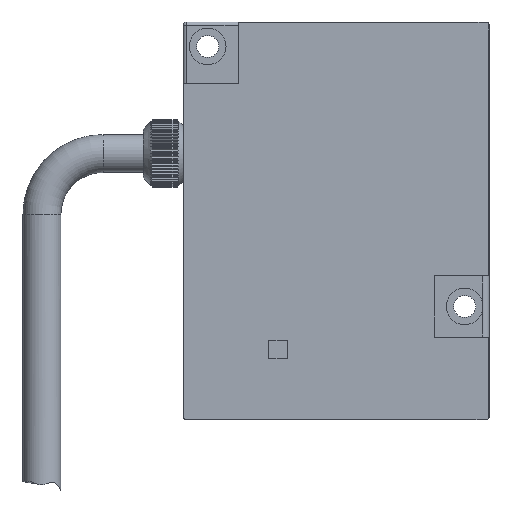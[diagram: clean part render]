
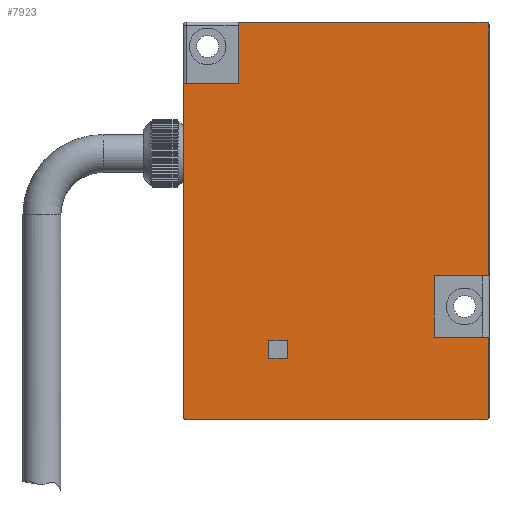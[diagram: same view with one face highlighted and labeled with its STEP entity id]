
A CAD part, front view. The second image highlights one B-rep face of the part: STEP entity #7923.
In plain terms, the highlighted planar face has unit normal (0, -1, 0).
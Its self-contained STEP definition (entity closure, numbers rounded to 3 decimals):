
#281 = CARTESIAN_POINT ( 'NONE',  ( 14., 0., -52. ) ) ;
#284 = CARTESIAN_POINT ( 'NONE',  ( 49.866, 0., -0.159 ) ) ;
#1088 = ORIENTED_EDGE ( 'NONE', *, *, #2467, .F. ) ;
#1090 = EDGE_LOOP ( 'NONE', ( #7174, #7172, #4149, #4150, #4151, #4152, #4153, #10716, #11285, #11286, #11330, #11329, #1088 ) ) ;
#1121 = EDGE_LOOP ( 'NONE', ( #10617, #10622, #6962, #8252 ) ) ;
#1608 = PLANE ( 'NONE',  #6050 ) ;
#1609 = CARTESIAN_POINT ( 'NONE',  ( 0., 0., -65. ) ) ;
#1610 = DIRECTION ( 'NONE',  ( 0., -1., 0. ) ) ;
#1611 = DIRECTION ( 'NONE',  ( 0., 0., -1. ) ) ;
#1874 = LINE ( 'NONE', #8358, #1876 ) ;
#1876 = VECTOR ( 'NONE', #8359, 1000. ) ;
#1877 = LINE ( 'NONE', #8360, #1878 ) ;
#1878 = VECTOR ( 'NONE', #8361, 1000. ) ;
#1879 = LINE ( 'NONE', #8365, #1881 ) ;
#1880 = CIRCLE ( 'NONE', #2304, 0.5 ) ;
#1881 = VECTOR ( 'NONE', #8366, 1000. ) ;
#1882 = LINE ( 'NONE', #8367, #1883 ) ;
#1883 = VECTOR ( 'NONE', #8368, 1000. ) ;
#1886 = LINE ( 'NONE', #8371, #1887 ) ;
#1887 = VECTOR ( 'NONE', #8372, 1000. ) ;
#1888 = LINE ( 'NONE', #8373, #1889 ) ;
#1889 = VECTOR ( 'NONE', #8374, 1000. ) ;
#1890 = LINE ( 'NONE', #8378, #1892 ) ;
#1891 = CIRCLE ( 'NONE', #2303, 0.5 ) ;
#1892 = VECTOR ( 'NONE', #8379, 1000. ) ;
#1893 = LINE ( 'NONE', #8383, #1895 ) ;
#1894 = CIRCLE ( 'NONE', #2302, 0.5 ) ;
#1895 = VECTOR ( 'NONE', #8384, 1000. ) ;
#1896 = LINE ( 'NONE', #8385, #1897 ) ;
#1897 = VECTOR ( 'NONE', #8386, 1000. ) ;
#1898 = LINE ( 'NONE', #8387, #1899 ) ;
#1899 = VECTOR ( 'NONE', #8388, 1000. ) ;
#1900 = LINE ( 'NONE', #8389, #1901 ) ;
#1901 = VECTOR ( 'NONE', #8390, 1000. ) ;
#1902 = LINE ( 'NONE', #8391, #1903 ) ;
#1903 = VECTOR ( 'NONE', #8392, 1000. ) ;
#1904 = LINE ( 'NONE', #8393, #1905 ) ;
#1905 = VECTOR ( 'NONE', #8394, 1000. ) ;
#1906 = LINE ( 'NONE', #8395, #1907 ) ;
#1907 = VECTOR ( 'NONE', #8396, 1000. ) ;
#2302 = AXIS2_PLACEMENT_3D ( 'NONE', #8380, #8381, #8382 ) ;
#2303 = AXIS2_PLACEMENT_3D ( 'NONE', #8375, #8376, #8377 ) ;
#2304 = AXIS2_PLACEMENT_3D ( 'NONE', #8362, #8363, #8364 ) ;
#2454 = EDGE_CURVE ( '������39', #9468, #8863, #1874, .T. ) ;
#2455 = EDGE_CURVE ( '������17', #9468, #3103, #1877, .T. ) ;
#2456 = EDGE_CURVE ( 'NONE', #3103, #9409, #1880, .T. ) ;
#2457 = EDGE_CURVE ( 'NONE', #9438, #9409, #1879, .T. ) ;
#2458 = EDGE_CURVE ( '������1', #8865, #9438, #1882, .T. ) ;
#2460 = EDGE_CURVE ( '������48', #9479, #8865, #1886, .T. ) ;
#2461 = EDGE_CURVE ( 'NONE', #9489, #9479, #1888, .T. ) ;
#2462 = EDGE_CURVE ( 'NONE', #9489, #8886, #1891, .T. ) ;
#2463 = EDGE_CURVE ( '������85', #9445, #8886, #1890, .T. ) ;
#2464 = EDGE_CURVE ( 'NONE', #9445, #8874, #1894, .T. ) ;
#2465 = EDGE_CURVE ( '������100', #8874, #9474, #1893, .T. ) ;
#2466 = EDGE_CURVE ( '������45', #9465, #9474, #1896, .T. ) ;
#2467 = EDGE_CURVE ( '������13', #8863, #9465, #1898, .T. ) ;
#2468 = EDGE_CURVE ( 'NONE', #8883, #9497, #1900, .T. ) ;
#2469 = EDGE_CURVE ( 'NONE', #3100, #8883, #1902, .T. ) ;
#2470 = EDGE_CURVE ( 'NONE', #9407, #3100, #1904, .T. ) ;
#2471 = EDGE_CURVE ( 'NONE', #9497, #9407, #1906, .T. ) ;
#3100 = VERTEX_POINT ( 'NONE', #281 ) ;
#3103 = VERTEX_POINT ( 'NONE', #284 ) ;
#3676 = CARTESIAN_POINT ( 'NONE',  ( 41., 0., -41.5 ) ) ;
#3678 = CARTESIAN_POINT ( 'NONE',  ( 9., 0., -10. ) ) ;
#3687 = CARTESIAN_POINT ( 'NONE',  ( 49.866, 0., -64.841 ) ) ;
#3696 = CARTESIAN_POINT ( 'NONE',  ( 14., 0., -55. ) ) ;
#3699 = CARTESIAN_POINT ( 'NONE',  ( 0.5, 0., -65. ) ) ;
#3831 = CARTESIAN_POINT ( 'NONE',  ( 17., 0., -52. ) ) ;
#3833 = CARTESIAN_POINT ( 'NONE',  ( 49.5, 0., 0. ) ) ;
#3862 = CARTESIAN_POINT ( 'NONE',  ( 9., 0., 0. ) ) ;
#3869 = CARTESIAN_POINT ( 'NONE',  ( 49.5, 0., -65. ) ) ;
#3889 = CARTESIAN_POINT ( 'NONE',  ( 41., 0., -51.5 ) ) ;
#3892 = CARTESIAN_POINT ( 'NONE',  ( 49.866, 0., -41.5 ) ) ;
#3898 = CARTESIAN_POINT ( 'NONE',  ( 49.866, 0., -51.5 ) ) ;
#3903 = CARTESIAN_POINT ( 'NONE',  ( 0., 0., -10. ) ) ;
#3913 = CARTESIAN_POINT ( 'NONE',  ( 0., 0., -64.5 ) ) ;
#3921 = CARTESIAN_POINT ( 'NONE',  ( 17., 0., -55. ) ) ;
#4149 = ORIENTED_EDGE ( 'NONE', *, *, #2456, .T. ) ;
#4150 = ORIENTED_EDGE ( 'NONE', *, *, #2457, .F. ) ;
#4151 = ORIENTED_EDGE ( 'NONE', *, *, #2458, .F. ) ;
#4152 = ORIENTED_EDGE ( 'NONE', *, *, #2460, .F. ) ;
#4153 = ORIENTED_EDGE ( 'NONE', *, *, #2461, .F. ) ;
#5528 = FACE_OUTER_BOUND ( 'NONE', #1090, .T. ) ;
#5529 = FACE_BOUND ( 'NONE', #1121, .T. ) ;
#6050 = AXIS2_PLACEMENT_3D ( 'NONE', #1609, #1610, #1611 ) ;
#6962 = ORIENTED_EDGE ( 'NONE', *, *, #2470, .F. ) ;
#7172 = ORIENTED_EDGE ( 'NONE', *, *, #2455, .T. ) ;
#7174 = ORIENTED_EDGE ( 'NONE', *, *, #2454, .F. ) ;
#7923 = ADVANCED_FACE ( '�����12', ( #5528, #5529 ), #1608, .T. ) ;
#8252 = ORIENTED_EDGE ( 'NONE', *, *, #2471, .F. ) ;
#8358 = CARTESIAN_POINT ( 'NONE',  ( 50., 0., -41.5 ) ) ;
#8359 = DIRECTION ( 'NONE',  ( -1., 0., 0. ) ) ;
#8360 = CARTESIAN_POINT ( 'NONE',  ( 49.866, 0., -41.5 ) ) ;
#8361 = DIRECTION ( 'NONE',  ( 0., 0., 1. ) ) ;
#8362 = CARTESIAN_POINT ( 'NONE',  ( 49.5, 0., -0.5 ) ) ;
#8363 = DIRECTION ( 'NONE',  ( 0., -1., 0. ) ) ;
#8364 = DIRECTION ( 'NONE',  ( 0., 0., -1. ) ) ;
#8365 = CARTESIAN_POINT ( 'NONE',  ( 0., 0., 0. ) ) ;
#8366 = DIRECTION ( 'NONE',  ( 1., 0., 0. ) ) ;
#8367 = CARTESIAN_POINT ( 'NONE',  ( 9., 0., 0. ) ) ;
#8368 = DIRECTION ( 'NONE',  ( 0., 0., 1. ) ) ;
#8371 = CARTESIAN_POINT ( 'NONE',  ( 0., 0., -10. ) ) ;
#8372 = DIRECTION ( 'NONE',  ( 1., 0., 0. ) ) ;
#8373 = CARTESIAN_POINT ( 'NONE',  ( 0., 0., 0. ) ) ;
#8374 = DIRECTION ( 'NONE',  ( 0., 0., 1. ) ) ;
#8375 = CARTESIAN_POINT ( 'NONE',  ( 0.5, 0., -64.5 ) ) ;
#8376 = DIRECTION ( 'NONE',  ( 0., -1., 0. ) ) ;
#8377 = DIRECTION ( 'NONE',  ( 0., 0., -1. ) ) ;
#8378 = CARTESIAN_POINT ( 'NONE',  ( 0., 0., -65. ) ) ;
#8379 = DIRECTION ( 'NONE',  ( -1., 0., 0. ) ) ;
#8380 = CARTESIAN_POINT ( 'NONE',  ( 49.5, 0., -64.5 ) ) ;
#8381 = DIRECTION ( 'NONE',  ( 0., -1., 0. ) ) ;
#8382 = DIRECTION ( 'NONE',  ( 0., 0., -1. ) ) ;
#8383 = CARTESIAN_POINT ( 'NONE',  ( 49.866, 0., -64.841 ) ) ;
#8384 = DIRECTION ( 'NONE',  ( 0., 0., 1. ) ) ;
#8385 = CARTESIAN_POINT ( 'NONE',  ( 50., 0., -51.5 ) ) ;
#8386 = DIRECTION ( 'NONE',  ( 1., 0., 0. ) ) ;
#8387 = CARTESIAN_POINT ( 'NONE',  ( 41., 0., -41.5 ) ) ;
#8388 = DIRECTION ( 'NONE',  ( 0., 0., -1. ) ) ;
#8389 = CARTESIAN_POINT ( 'NONE',  ( 14., 0., -55. ) ) ;
#8390 = DIRECTION ( 'NONE',  ( 1., 0., 0. ) ) ;
#8391 = CARTESIAN_POINT ( 'NONE',  ( 14., 0., -52. ) ) ;
#8392 = DIRECTION ( 'NONE',  ( 0., 0., -1. ) ) ;
#8393 = CARTESIAN_POINT ( 'NONE',  ( 14., 0., -52. ) ) ;
#8394 = DIRECTION ( 'NONE',  ( -1., 0., 0. ) ) ;
#8395 = CARTESIAN_POINT ( 'NONE',  ( 17., 0., -52. ) ) ;
#8396 = DIRECTION ( 'NONE',  ( 0., 0., 1. ) ) ;
#8863 = VERTEX_POINT ( 'NONE', #3676 ) ;
#8865 = VERTEX_POINT ( 'NONE', #3678 ) ;
#8874 = VERTEX_POINT ( 'NONE', #3687 ) ;
#8883 = VERTEX_POINT ( 'NONE', #3696 ) ;
#8886 = VERTEX_POINT ( 'NONE', #3699 ) ;
#9407 = VERTEX_POINT ( 'NONE', #3831 ) ;
#9409 = VERTEX_POINT ( 'NONE', #3833 ) ;
#9438 = VERTEX_POINT ( 'NONE', #3862 ) ;
#9445 = VERTEX_POINT ( 'NONE', #3869 ) ;
#9465 = VERTEX_POINT ( 'NONE', #3889 ) ;
#9468 = VERTEX_POINT ( 'NONE', #3892 ) ;
#9474 = VERTEX_POINT ( 'NONE', #3898 ) ;
#9479 = VERTEX_POINT ( 'NONE', #3903 ) ;
#9489 = VERTEX_POINT ( 'NONE', #3913 ) ;
#9497 = VERTEX_POINT ( 'NONE', #3921 ) ;
#10617 = ORIENTED_EDGE ( 'NONE', *, *, #2468, .F. ) ;
#10622 = ORIENTED_EDGE ( 'NONE', *, *, #2469, .F. ) ;
#10716 = ORIENTED_EDGE ( 'NONE', *, *, #2462, .T. ) ;
#11285 = ORIENTED_EDGE ( 'NONE', *, *, #2463, .F. ) ;
#11286 = ORIENTED_EDGE ( 'NONE', *, *, #2464, .T. ) ;
#11329 = ORIENTED_EDGE ( 'NONE', *, *, #2466, .F. ) ;
#11330 = ORIENTED_EDGE ( 'NONE', *, *, #2465, .T. ) ;
